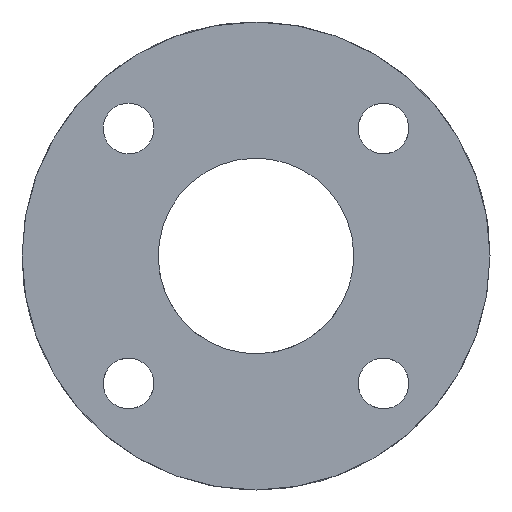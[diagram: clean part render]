
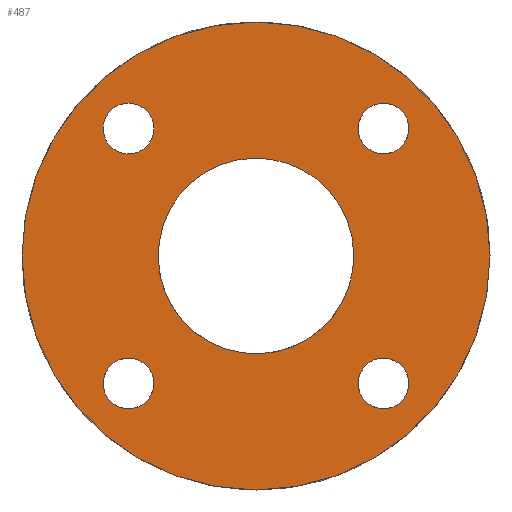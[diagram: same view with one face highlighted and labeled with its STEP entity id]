
A CAD part, left-side view. The second image highlights one B-rep face of the part: STEP entity #487.
In plain terms, the highlighted planar face has unit normal (-1, 0, 0).
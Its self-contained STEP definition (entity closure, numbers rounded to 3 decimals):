
#63=CARTESIAN_POINT('Vertex',(0.,13.721,15.035)) ;
#89=CARTESIAN_POINT('Vertex',(0.,19.513,18.199)) ;
#93=CARTESIAN_POINT('Control Point',(0.,13.721,15.035)) ;
#94=CARTESIAN_POINT('Control Point',(0.,13.97,14.58)) ;
#95=CARTESIAN_POINT('Control Point',(0.,14.307,14.174)) ;
#96=CARTESIAN_POINT('Control Point',(0.,14.722,13.84)) ;
#97=CARTESIAN_POINT('Control Point',(0.,15.659,13.353)) ;
#98=CARTESIAN_POINT('Control Point',(0.,16.711,13.256)) ;
#99=CARTESIAN_POINT('Control Point',(0.,17.241,13.313)) ;
#100=CARTESIAN_POINT('Control Point',(0.,18.248,13.632)) ;
#101=CARTESIAN_POINT('Control Point',(0.,19.06,14.307)) ;
#102=CARTESIAN_POINT('Control Point',(0.,19.394,14.722)) ;
#103=CARTESIAN_POINT('Control Point',(0.,19.881,15.659)) ;
#104=CARTESIAN_POINT('Control Point',(0.,19.978,16.711)) ;
#105=CARTESIAN_POINT('Control Point',(0.,19.921,17.241)) ;
#106=CARTESIAN_POINT('Control Point',(0.,19.762,17.744)) ;
#107=CARTESIAN_POINT('Control Point',(0.,19.513,18.199)) ;
#126=CARTESIAN_POINT('Axis2P3D Location',(0.,16.617,16.617)) ;
#388=CARTESIAN_POINT('Axis2P3D Location',(0.,0.,0.)) ;
#393=CARTESIAN_POINT('Axis2P3D Location',(0.,0.,0.)) ;
#397=CARTESIAN_POINT('Vertex',(0.,-30.5,0.)) ;
#399=CARTESIAN_POINT('Vertex',(0.,30.5,0.)) ;
#402=CARTESIAN_POINT('Axis2P3D Location',(0.,0.,0.)) ;
#415=CARTESIAN_POINT('Axis2P3D Location',(0.,0.,0.)) ;
#419=CARTESIAN_POINT('Vertex',(0.,-11.189,-6.113)) ;
#421=CARTESIAN_POINT('Vertex',(0.,11.189,6.113)) ;
#424=CARTESIAN_POINT('Axis2P3D Location',(0.,0.,0.)) ;
#433=CARTESIAN_POINT('Axis2P3D Location',(0.,-16.617,16.617)) ;
#437=CARTESIAN_POINT('Vertex',(0.,-18.199,19.513)) ;
#439=CARTESIAN_POINT('Vertex',(0.,-15.035,13.721)) ;
#442=CARTESIAN_POINT('Axis2P3D Location',(0.,-16.617,16.617)) ;
#451=CARTESIAN_POINT('Axis2P3D Location',(0.,-16.617,-16.617)) ;
#455=CARTESIAN_POINT('Vertex',(0.,-19.513,-18.199)) ;
#457=CARTESIAN_POINT('Vertex',(0.,-13.721,-15.035)) ;
#460=CARTESIAN_POINT('Axis2P3D Location',(0.,-16.617,-16.617)) ;
#469=CARTESIAN_POINT('Axis2P3D Location',(0.,16.617,-16.617)) ;
#473=CARTESIAN_POINT('Vertex',(0.,18.199,-19.513)) ;
#475=CARTESIAN_POINT('Vertex',(0.,15.035,-13.721)) ;
#478=CARTESIAN_POINT('Axis2P3D Location',(0.,16.617,-16.617)) ;
#127=DIRECTION('Axis2P3D Direction',(1.,0.,-0.)) ;
#389=DIRECTION('Axis2P3D Direction',(1.,0.,0.)) ;
#390=DIRECTION('Axis2P3D XDirection',(0.,1.,0.)) ;
#394=DIRECTION('Axis2P3D Direction',(1.,0.,0.)) ;
#403=DIRECTION('Axis2P3D Direction',(1.,0.,0.)) ;
#416=DIRECTION('Axis2P3D Direction',(1.,0.,0.)) ;
#425=DIRECTION('Axis2P3D Direction',(1.,0.,0.)) ;
#434=DIRECTION('Axis2P3D Direction',(1.,0.,0.)) ;
#443=DIRECTION('Axis2P3D Direction',(1.,0.,0.)) ;
#452=DIRECTION('Axis2P3D Direction',(1.,0.,0.)) ;
#461=DIRECTION('Axis2P3D Direction',(1.,0.,0.)) ;
#470=DIRECTION('Axis2P3D Direction',(1.,0.,0.)) ;
#479=DIRECTION('Axis2P3D Direction',(1.,0.,0.)) ;
#128=AXIS2_PLACEMENT_3D('Circle Axis2P3D',#126,#127,$) ;
#391=AXIS2_PLACEMENT_3D('Plane Axis2P3D',#388,#389,#390) ;
#395=AXIS2_PLACEMENT_3D('Circle Axis2P3D',#393,#394,$) ;
#404=AXIS2_PLACEMENT_3D('Circle Axis2P3D',#402,#403,$) ;
#417=AXIS2_PLACEMENT_3D('Circle Axis2P3D',#415,#416,$) ;
#426=AXIS2_PLACEMENT_3D('Circle Axis2P3D',#424,#425,$) ;
#435=AXIS2_PLACEMENT_3D('Circle Axis2P3D',#433,#434,$) ;
#444=AXIS2_PLACEMENT_3D('Circle Axis2P3D',#442,#443,$) ;
#453=AXIS2_PLACEMENT_3D('Circle Axis2P3D',#451,#452,$) ;
#462=AXIS2_PLACEMENT_3D('Circle Axis2P3D',#460,#461,$) ;
#471=AXIS2_PLACEMENT_3D('Circle Axis2P3D',#469,#470,$) ;
#480=AXIS2_PLACEMENT_3D('Circle Axis2P3D',#478,#479,$) ;
#408=ORIENTED_EDGE('',*,*,#401,.F.) ;
#409=ORIENTED_EDGE('',*,*,#406,.F.) ;
#412=ORIENTED_EDGE('',*,*,#108,.T.) ;
#413=ORIENTED_EDGE('',*,*,#130,.T.) ;
#430=ORIENTED_EDGE('',*,*,#423,.T.) ;
#431=ORIENTED_EDGE('',*,*,#428,.T.) ;
#448=ORIENTED_EDGE('',*,*,#441,.T.) ;
#449=ORIENTED_EDGE('',*,*,#446,.T.) ;
#466=ORIENTED_EDGE('',*,*,#459,.T.) ;
#467=ORIENTED_EDGE('',*,*,#464,.T.) ;
#484=ORIENTED_EDGE('',*,*,#477,.T.) ;
#485=ORIENTED_EDGE('',*,*,#482,.T.) ;
#414=FACE_BOUND('',#411,.T.) ;
#432=FACE_BOUND('',#429,.T.) ;
#450=FACE_BOUND('',#447,.T.) ;
#468=FACE_BOUND('',#465,.T.) ;
#486=FACE_BOUND('',#483,.T.) ;
#487=ADVANCED_FACE('TTM25',(#410,#414,#432,#450,#468,#486),#392,.F.) ;
#92=B_SPLINE_CURVE_WITH_KNOTS('',5,(#93,#94,#95,#96,#97,#98,#99,#100,#101,#102,#103,#104,#105,#106,#107),.UNSPECIFIED.,.F.,.U.,(6,3,3,3,6),(-5.184,-2.592,0.,2.592,5.184),.UNSPECIFIED.) ;
#129=CIRCLE('generated circle',#128,3.3) ;
#396=CIRCLE('generated circle',#395,30.5) ;
#405=CIRCLE('generated circle',#404,30.5) ;
#418=CIRCLE('generated circle',#417,12.75) ;
#427=CIRCLE('generated circle',#426,12.75) ;
#436=CIRCLE('generated circle',#435,3.3) ;
#445=CIRCLE('generated circle',#444,3.3) ;
#454=CIRCLE('generated circle',#453,3.3) ;
#463=CIRCLE('generated circle',#462,3.3) ;
#472=CIRCLE('generated circle',#471,3.3) ;
#481=CIRCLE('generated circle',#480,3.3) ;
#108=EDGE_CURVE('',#64,#90,#92,.T.) ;
#130=EDGE_CURVE('',#90,#64,#129,.T.) ;
#401=EDGE_CURVE('',#398,#400,#396,.T.) ;
#406=EDGE_CURVE('',#400,#398,#405,.T.) ;
#423=EDGE_CURVE('',#420,#422,#418,.T.) ;
#428=EDGE_CURVE('',#422,#420,#427,.T.) ;
#441=EDGE_CURVE('',#438,#440,#436,.T.) ;
#446=EDGE_CURVE('',#440,#438,#445,.T.) ;
#459=EDGE_CURVE('',#456,#458,#454,.T.) ;
#464=EDGE_CURVE('',#458,#456,#463,.T.) ;
#477=EDGE_CURVE('',#474,#476,#472,.T.) ;
#482=EDGE_CURVE('',#476,#474,#481,.T.) ;
#407=EDGE_LOOP('',(#408,#409)) ;
#411=EDGE_LOOP('',(#412,#413)) ;
#429=EDGE_LOOP('',(#430,#431)) ;
#447=EDGE_LOOP('',(#448,#449)) ;
#465=EDGE_LOOP('',(#466,#467)) ;
#483=EDGE_LOOP('',(#484,#485)) ;
#410=FACE_OUTER_BOUND('',#407,.T.) ;
#392=PLANE('',#391) ;
#64=VERTEX_POINT('',#63) ;
#90=VERTEX_POINT('',#89) ;
#398=VERTEX_POINT('',#397) ;
#400=VERTEX_POINT('',#399) ;
#420=VERTEX_POINT('',#419) ;
#422=VERTEX_POINT('',#421) ;
#438=VERTEX_POINT('',#437) ;
#440=VERTEX_POINT('',#439) ;
#456=VERTEX_POINT('',#455) ;
#458=VERTEX_POINT('',#457) ;
#474=VERTEX_POINT('',#473) ;
#476=VERTEX_POINT('',#475) ;
